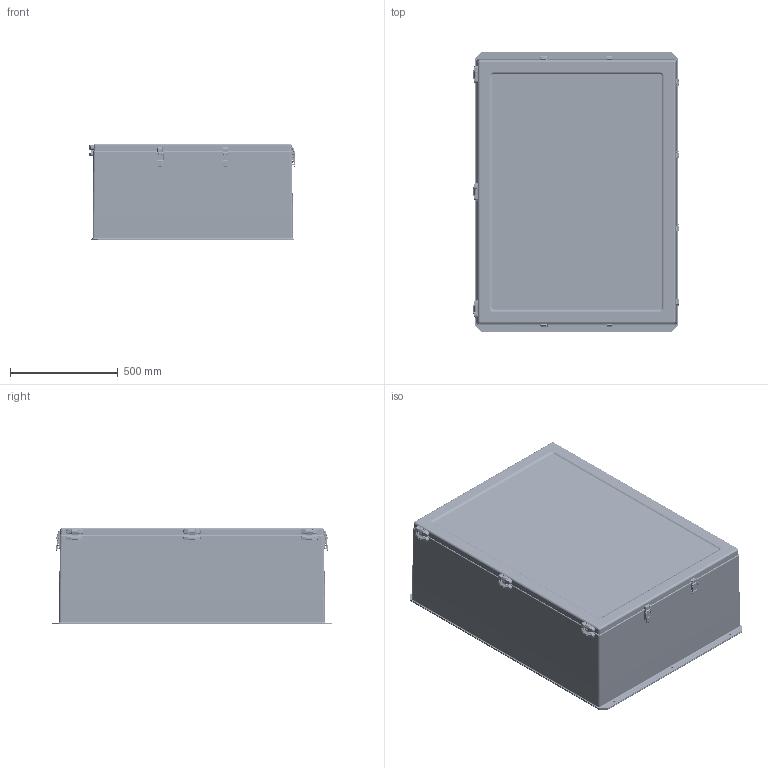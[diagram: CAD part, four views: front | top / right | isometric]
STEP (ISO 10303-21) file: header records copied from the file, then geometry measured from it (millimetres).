
FILE_DESCRIPTION (( 'STEP AP203' ), '1' );
FILE_NAME ('a48h3616gqrlp.STEP', '2012-03-16T22:31:53', ( 'Hoffman User' ), ( 'Hoffman Enclosures' ), 'SwSTEP 2.0', 'SolidWorks 2010', '' );
FILE_SCHEMA (( 'CONFIG_CONTROL_DESIGN' ));
Products named in the file (25): 87759496_87759496 DOOR CLOSED; 22293001; 87955618; 22292001; 87955597; 87955576; 87951276_Closed angled bail; 87949198_87949198; 87951276_Closed parallel bail; 87951273_87951273; 87951274_87951274; 14241007_14241007; 87949197_87949197; a48h3616gqrlp; 22346017; 87951638; 22178002; 22178001; 22112007_22112003; 89043226; 87949190; 87543466; 87949258; 99416061_FLEX; 24352001
Assembly tree (57 placements, depth 4):
  a48h3616gqrlp
    87759496_87759496 DOOR CLOSED  x3
      22293001
        87955576  x2
        87955618
      14241007_14241007
      22292001
        87955576  x2
        87955597
    99416061_FLEX
      24352001
    87949198_87949198  x8
    87951276_Closed angled bail  x5
      14241007_14241007
      87951273_87951273
      87951274_87951274
      87949197_87949197
    87951276_Closed parallel bail  x3
      87951273_87951273
      87949197_87949197
      14241007_14241007
      87951274_87951274
    87949190
      87543466
      87949258
    22346017
      22178002  x8
        22178001
        22112007_22112003
      89043226
      87951638
Bounding box: 960.18 x 1298.96 x 447.85 mm (x, y, z)
Volume: 18569912.3 mm3; surface area: 9976738 mm2
Topology: 93 solids, 94 shells, 11845 faces, 28940 edges, 17134 vertices
Faces by surface type: cylinder 3360, bspline 3327, plane 2526, torus 1530, cone 586, sphere 516
Entity records: 111310 total; most frequent: CARTESIAN_POINT 48621, ORIENTED_EDGE 13372, DIRECTION 10771, EDGE_CURVE 6686, VERTEX_POINT 4141, AXIS2_PLACEMENT_3D 3708, VECTOR 3355, LINE 3355
